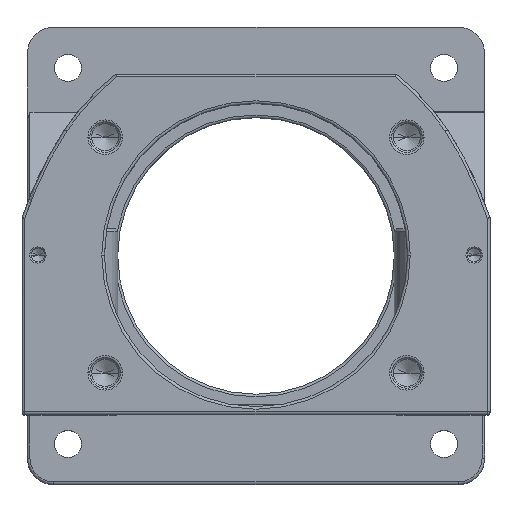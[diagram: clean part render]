
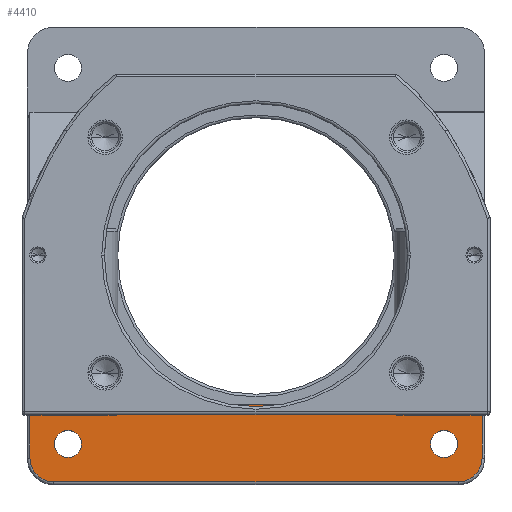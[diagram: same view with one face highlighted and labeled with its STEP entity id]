
A CAD part, top view. The second image highlights one B-rep face of the part: STEP entity #4410.
In plain terms, the highlighted planar face has unit normal (0, 0, 1).
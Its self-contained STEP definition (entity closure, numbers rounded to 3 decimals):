
#3 = DIRECTION ( 'NONE',  ( 0., 0., 1. ) ) ;
#97 = VERTEX_POINT ( 'NONE', #7238 ) ;
#143 = AXIS2_PLACEMENT_3D ( 'NONE', #463, #1108, #5614 ) ;
#185 = EDGE_CURVE ( 'NONE', #575, #7229, #4392, .T. ) ;
#265 = CARTESIAN_POINT ( 'NONE',  ( 42.5, -43., 5. ) ) ;
#444 = CARTESIAN_POINT ( 'NONE',  ( 38., -38., 5. ) ) ;
#463 = CARTESIAN_POINT ( 'NONE',  ( -43., -43., 5. ) ) ;
#541 = ORIENTED_EDGE ( 'NONE', *, *, #7781, .T. ) ;
#575 = VERTEX_POINT ( 'NONE', #7067 ) ;
#630 = DIRECTION ( 'NONE',  ( -1., 0., 0. ) ) ;
#634 = ORIENTED_EDGE ( 'NONE', *, *, #5874, .T. ) ;
#710 = EDGE_CURVE ( 'NONE', #3760, #97, #3788, .T. ) ;
#777 = DIRECTION ( 'NONE',  ( 0., 0., -1. ) ) ;
#850 = EDGE_CURVE ( 'NONE', #6643, #8264, #6203, .T. ) ;
#971 = ORIENTED_EDGE ( 'NONE', *, *, #1795, .T. ) ;
#982 = ORIENTED_EDGE ( 'NONE', *, *, #7884, .F. ) ;
#984 = CARTESIAN_POINT ( 'NONE',  ( -43., -42.5, 5. ) ) ;
#1014 = LINE ( 'NONE', #4121, #2320 ) ;
#1108 = DIRECTION ( 'NONE',  ( 0., 0., -1. ) ) ;
#1353 = FACE_OUTER_BOUND ( 'NONE', #7055, .T. ) ;
#1500 = CIRCLE ( 'NONE', #5659, 2.55 ) ;
#1539 = EDGE_CURVE ( 'NONE', #3187, #6299, #1014, .T. ) ;
#1566 = DIRECTION ( 'NONE',  ( 0., 1., 0. ) ) ;
#1622 = CARTESIAN_POINT ( 'NONE',  ( -38., -38., 5. ) ) ;
#1638 = AXIS2_PLACEMENT_3D ( 'NONE', #5562, #2337, #6859 ) ;
#1661 = DIRECTION ( 'NONE',  ( 0., -1., 0. ) ) ;
#1795 = EDGE_CURVE ( 'NONE', #7229, #575, #1500, .T. ) ;
#1947 = CARTESIAN_POINT ( 'NONE',  ( 35.355, -35.355, 5. ) ) ;
#2005 = VECTOR ( 'NONE', #1566, 1000. ) ;
#2272 = DIRECTION ( 'NONE',  ( -1., 0., 0. ) ) ;
#2291 = AXIS2_PLACEMENT_3D ( 'NONE', #1947, #6472, #2606 ) ;
#2320 = VECTOR ( 'NONE', #1661, 1000. ) ;
#2337 = DIRECTION ( 'NONE',  ( 0., 0., -1. ) ) ;
#2373 = PLANE ( 'NONE',  #143 ) ;
#2389 = DIRECTION ( 'NONE',  ( 1., 0., 0. ) ) ;
#2390 = DIRECTION ( 'NONE',  ( -1., 0., 0. ) ) ;
#2391 = VECTOR ( 'NONE', #2389, 1000. ) ;
#2606 = DIRECTION ( 'NONE',  ( -1., 0., 0. ) ) ;
#2743 = CARTESIAN_POINT ( 'NONE',  ( -38., -42.5, 5. ) ) ;
#2997 = VECTOR ( 'NONE', #3581, 1000. ) ;
#3085 = FACE_BOUND ( 'NONE', #5252, .T. ) ;
#3187 = VERTEX_POINT ( 'NONE', #5036 ) ;
#3301 = ORIENTED_EDGE ( 'NONE', *, *, #7757, .T. ) ;
#3354 = AXIS2_PLACEMENT_3D ( 'NONE', #6419, #3824, #3909 ) ;
#3581 = DIRECTION ( 'NONE',  ( 1., 0., 0. ) ) ;
#3703 = CARTESIAN_POINT ( 'NONE',  ( -43., -28., 5. ) ) ;
#3760 = VERTEX_POINT ( 'NONE', #4754 ) ;
#3783 = EDGE_CURVE ( 'NONE', #8264, #4896, #5436, .T. ) ;
#3788 = CIRCLE ( 'NONE', #1638, 2.55 ) ;
#3824 = DIRECTION ( 'NONE',  ( 0., 0., -1. ) ) ;
#3856 = ORIENTED_EDGE ( 'NONE', *, *, #850, .T. ) ;
#3909 = DIRECTION ( 'NONE',  ( -1., 0., 0. ) ) ;
#4121 = CARTESIAN_POINT ( 'NONE',  ( -42.5, -43., 5. ) ) ;
#4157 = CARTESIAN_POINT ( 'NONE',  ( 42.5, -38., 5. ) ) ;
#4158 = VERTEX_POINT ( 'NONE', #2743 ) ;
#4353 = CARTESIAN_POINT ( 'NONE',  ( -35.355, -35.355, 5. ) ) ;
#4392 = CIRCLE ( 'NONE', #3354, 2.55 ) ;
#4410 = ADVANCED_FACE ( 'NONE', ( #8226, #3085, #1353 ), #2373, .F. ) ;
#4589 = ORIENTED_EDGE ( 'NONE', *, *, #185, .T. ) ;
#4754 = CARTESIAN_POINT ( 'NONE',  ( 32.805, -35.355, 5. ) ) ;
#4896 = VERTEX_POINT ( 'NONE', #7098 ) ;
#4914 = LINE ( 'NONE', #984, #2997 ) ;
#5036 = CARTESIAN_POINT ( 'NONE',  ( -42.5, -28., 5. ) ) ;
#5252 = EDGE_LOOP ( 'NONE', ( #4589, #971 ) ) ;
#5436 = LINE ( 'NONE', #265, #2005 ) ;
#5457 = CARTESIAN_POINT ( 'NONE',  ( -32.805, -35.355, 5. ) ) ;
#5538 = AXIS2_PLACEMENT_3D ( 'NONE', #444, #3, #630 ) ;
#5562 = CARTESIAN_POINT ( 'NONE',  ( 35.355, -35.355, 5. ) ) ;
#5614 = DIRECTION ( 'NONE',  ( -1., 0., 0. ) ) ;
#5659 = AXIS2_PLACEMENT_3D ( 'NONE', #4353, #777, #2390 ) ;
#5675 = CARTESIAN_POINT ( 'NONE',  ( 38., -42.5, 5. ) ) ;
#5874 = EDGE_CURVE ( 'NONE', #97, #3760, #6085, .T. ) ;
#6085 = CIRCLE ( 'NONE', #2291, 2.55 ) ;
#6148 = DIRECTION ( 'NONE',  ( 0., 0., 1. ) ) ;
#6203 = CIRCLE ( 'NONE', #5538, 4.5 ) ;
#6299 = VERTEX_POINT ( 'NONE', #7597 ) ;
#6419 = CARTESIAN_POINT ( 'NONE',  ( -35.355, -35.355, 5. ) ) ;
#6472 = DIRECTION ( 'NONE',  ( 0., 0., -1. ) ) ;
#6490 = ORIENTED_EDGE ( 'NONE', *, *, #1539, .T. ) ;
#6643 = VERTEX_POINT ( 'NONE', #5675 ) ;
#6829 = CIRCLE ( 'NONE', #7534, 4.5 ) ;
#6859 = DIRECTION ( 'NONE',  ( -1., 0., 0. ) ) ;
#7055 = EDGE_LOOP ( 'NONE', ( #982, #6490, #3301, #541, #3856, #7925 ) ) ;
#7067 = CARTESIAN_POINT ( 'NONE',  ( -37.905, -35.355, 5. ) ) ;
#7098 = CARTESIAN_POINT ( 'NONE',  ( 42.5, -28., 5. ) ) ;
#7229 = VERTEX_POINT ( 'NONE', #5457 ) ;
#7238 = CARTESIAN_POINT ( 'NONE',  ( 37.905, -35.355, 5. ) ) ;
#7534 = AXIS2_PLACEMENT_3D ( 'NONE', #1622, #6148, #2272 ) ;
#7597 = CARTESIAN_POINT ( 'NONE',  ( -42.5, -38., 5. ) ) ;
#7757 = EDGE_CURVE ( 'NONE', #6299, #4158, #6829, .T. ) ;
#7781 = EDGE_CURVE ( 'NONE', #4158, #6643, #4914, .T. ) ;
#7795 = ORIENTED_EDGE ( 'NONE', *, *, #710, .T. ) ;
#7884 = EDGE_CURVE ( 'NONE', #3187, #4896, #7936, .T. ) ;
#7925 = ORIENTED_EDGE ( 'NONE', *, *, #3783, .T. ) ;
#7936 = LINE ( 'NONE', #3703, #2391 ) ;
#8226 = FACE_BOUND ( 'NONE', #8336, .T. ) ;
#8264 = VERTEX_POINT ( 'NONE', #4157 ) ;
#8336 = EDGE_LOOP ( 'NONE', ( #7795, #634 ) ) ;
